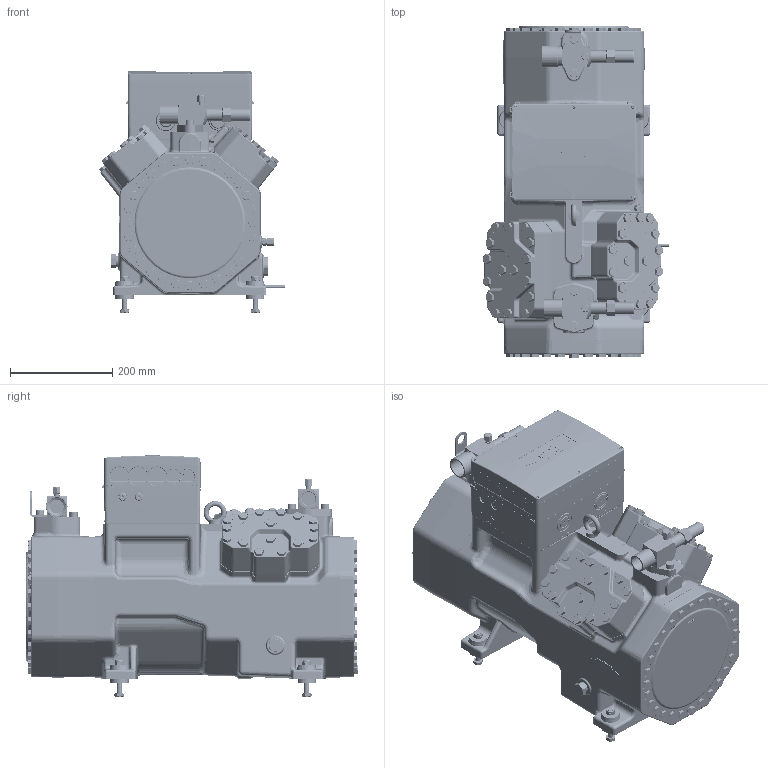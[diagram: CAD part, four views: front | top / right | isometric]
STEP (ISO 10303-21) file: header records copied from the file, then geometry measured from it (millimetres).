
FILE_DESCRIPTION(/* description */ (''),/* implementation_level */ '2;1');
FILE_NAME(/* name */ '4TME-4PME-STANDARD.stp',/* time_stamp */ '2023-11-06T09:27:43+01:00',/* author */ (''),/* organization */ (''),/* preprocessor_version */ 'ST-DEVELOPER v19.3',/* originating_system */ 'SIEMENS PLM Software NX2212.3001',/* authorisation */ '');
FILE_SCHEMA (('AUTOMOTIVE_DESIGN { 1 0 10303 214 3 1 1 1 }'));
Products named in the file (11): ELECTRICAL-TERMINAL-BOX-IP65; CRANKCASE-HEATER-200-460V; TERMINAL-BOX-CE4-CM-RC-02; DAMPER-ELEMENT-CKHE4-CME4; SHUT-OFF-VALVE-D35-CME4-LP; SHUT-OFF-VALVE-D28-CME4-HP; BEARING-COVER-CKH4; BEARING-COVER-CKH4-LOW; CYL-HEAD-W-SCREWS-CKH5; CME4-BASIC-BODY-CM; 4TME-4PME-STANDARD
Assembly tree (11 placements, depth 2):
  4TME-4PME-STANDARD
    CME4-BASIC-BODY-CM
    CYL-HEAD-W-SCREWS-CKH5  x2
    BEARING-COVER-CKH4-LOW
    BEARING-COVER-CKH4
    SHUT-OFF-VALVE-D28-CME4-HP
    SHUT-OFF-VALVE-D35-CME4-LP
    DAMPER-ELEMENT-CKHE4-CME4
    TERMINAL-BOX-CE4-CM-RC-02
    CRANKCASE-HEATER-200-460V
    ELECTRICAL-TERMINAL-BOX-IP65
Bounding box: 364.68 x 649.98 x 472.4 mm (x, y, z)
Volume: 55470565.4 mm3; surface area: 2018482.8 mm2
Topology: 26 solids, 70 shells, 12274 faces, 30460 edges, 17865 vertices
Faces by surface type: plane 3877, bspline 3641, cylinder 1886, cone 979, extrusion 920, torus 695, sphere 276
Full cylindrical faces by diameter (mm): 3 x4, 3.57 x6, 4 x12, 5.2 x2, 5.795 x2, 6 x5, 6.3 x2, 8 x1, 8.5 x17, 8.782 x2, 8.8 x2, 9 x5, 10 x57, 10.29 x2, 10.72 x2, 10.8 x1, 11 x5, 12.2 x4, 13.716 x1, 14.63 x32, 15 x1, 15.6 x4, 16 x13, 17 x1, 18 x5, 20 x32, 21 x4, 21.34 x1, 22.2 x1, 24 x4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
Entity records: 313879 total; most frequent: CARTESIAN_POINT 117543, ORIENTED_EDGE 44364, DIRECTION 33117, EDGE_CURVE 22182, VERTEX_POINT 14110, AXIS2_PLACEMENT_3D 12662, EDGE_LOOP 10910, ADVANCED_FACE 9549
